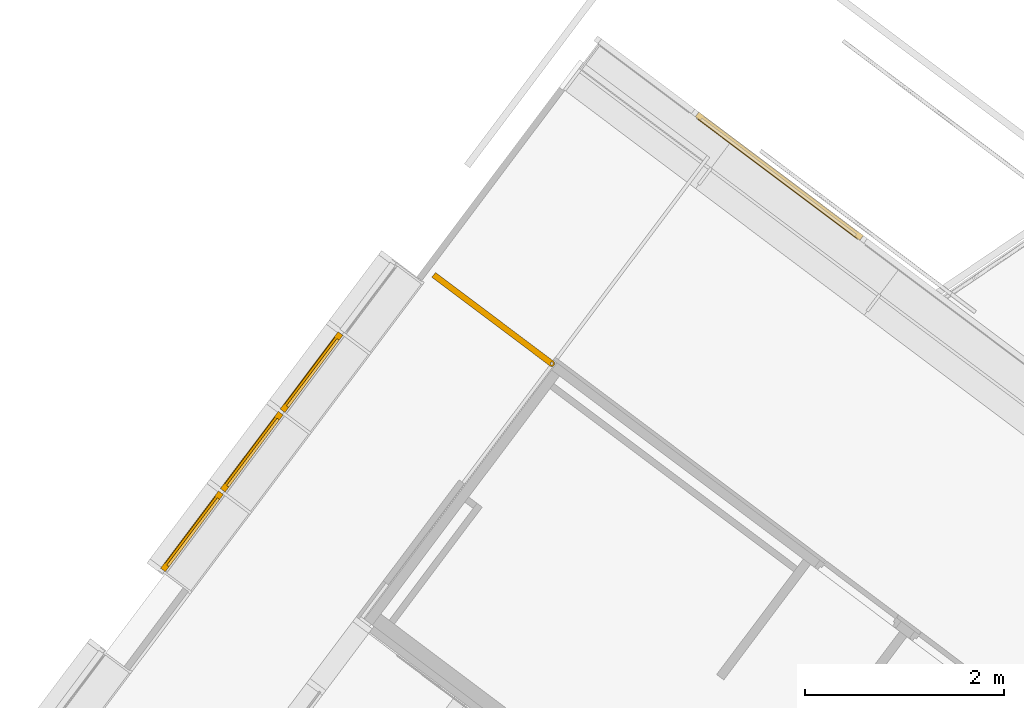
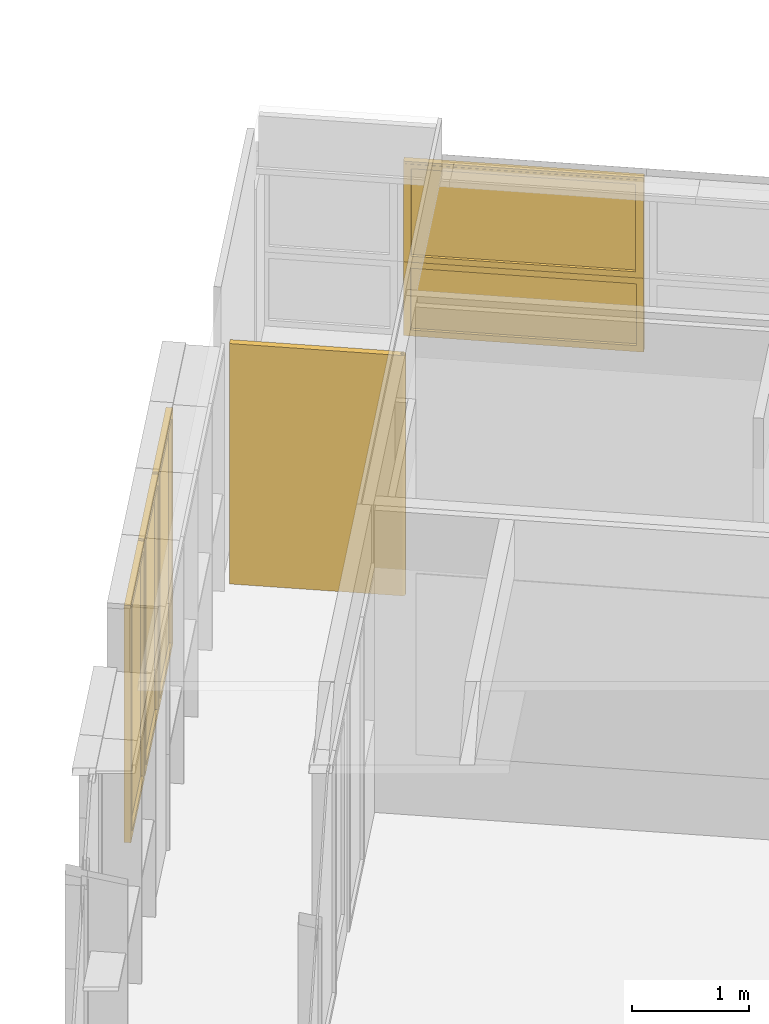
# One storey, part 204 of 243: 5 windows, 1 door, 2 elements without a shape of their own.
"""IFC2X3 building model written with IfcOpenShell, lengths in metres."""

import ifcopenshell
import ifcopenshell.guid

model = None  # the IFC model being written
_history = None  # IfcOwnerHistory: only IFC2X3 demands one
_inside = {}  # id of a spatial element -> (the spatial element, [elements in it])
_under = {}  # id of a project, library or spatial element -> (it, [spatial elements below it])
_declared = {}  # id of a project -> (the project, [libraries it declares])
_typed = {}  # id of a type object -> (the type object, [elements of that type])
_made_of = {}  # id of a material, layer set ... -> (it, [elements and type objects made of it])


def new_model(schema):
    """Start an empty IFC model of exactly this schema.

    Asked for "IFC4X3", IfcOpenShell would pick the latest addendum, in which some entities
    have other attributes; the version numbers below select the first issue.
    IFC2X3 requires an IfcOwnerHistory on every rooted entity: one is made here for all.
    """
    global model, _history
    if schema == "IFC4X3":
        model = ifcopenshell.file(schema_version=(4, 3, 0, 0))
    else:
        model = ifcopenshell.file(schema=schema)
    _inside.clear()
    _under.clear()
    _declared.clear()
    _typed.clear()
    _made_of.clear()
    _history = None
    if model.schema == "IFC2X3":
        org = make("IfcOrganization", Name="unknown")
        user = make(
            "IfcPersonAndOrganization",
            ThePerson=make("IfcPerson", FamilyName="unknown"),
            TheOrganization=org,
        )
        app = make(
            "IfcApplication",
            ApplicationDeveloper=org,
            Version="unknown",
            ApplicationFullName="unknown",
            ApplicationIdentifier="unknown",
        )
        _history = make(
            "IfcOwnerHistory",
            OwningUser=user,
            OwningApplication=app,
            ChangeAction="ADDED",
            CreationDate=0,
        )
    return model


def make(cls, **values):
    """One entity of the class cls with the attributes given. An attribute that is None is left unset."""
    return model.create_entity(
        cls, **{name: value for name, value in values.items() if value is not None}
    )


def entity(cls, *values):
    """Any entity or typed value of the class cls, its attributes in the order of the schema. None: left unset."""
    e = model.create_entity(cls)
    for i, value in enumerate(values):
        if value is not None:
            e[i] = value
    return e


def rooted(cls, **values):
    """An entity with a GlobalId (a new one), such as an element, a storey or a relation."""
    return make(cls, GlobalId=ifcopenshell.guid.new(), OwnerHistory=_history, **values)


def si_unit(unit_type, name, prefix=None):
    """IfcSIUnit, for example si_unit("LENGTHUNIT", "METRE", prefix="MILLI")."""
    return make("IfcSIUnit", UnitType=unit_type, Prefix=prefix, Name=name)


def converted_unit(unit_type, name, factor, base, dimensions=None, offset=None):
    """IfcConversionBasedUnit, such as the inch: factor (a typed value) times the base unit."""
    return make(
        "IfcConversionBasedUnit"
        if offset is None
        else "IfcConversionBasedUnitWithOffset",
        ConversionOffset=offset,
        Dimensions=None
        if dimensions is None
        else entity("IfcDimensionalExponents", *dimensions),
        UnitType=unit_type,
        Name=name,
        ConversionFactor=make(
            "IfcMeasureWithUnit", ValueComponent=factor, UnitComponent=base
        ),
    )


def derived_unit(unit_type, elements):
    """IfcDerivedUnit: a product of units, each with its exponent."""
    return make(
        "IfcDerivedUnit",
        Elements=[
            make("IfcDerivedUnitElement", Unit=unit, Exponent=power)
            for unit, power in elements
        ],
        UnitType=unit_type,
    )


def assignment(units):
    """IfcUnitAssignment: the units of a project."""
    return None if units is None else make("IfcUnitAssignment", Units=units)


def point(xyz):
    """IfcCartesianPoint."""
    return None if xyz is None else make("IfcCartesianPoint", Coordinates=xyz)


def direction(xyz):
    """IfcDirection."""
    return None if xyz is None else make("IfcDirection", DirectionRatios=xyz)


def frame(location, z_axis=None, x_axis=None):
    """IfcAxis2Placement3D, a coordinate frame: its origin and axes. An axis left out is left unset."""
    return make(
        "IfcAxis2Placement3D",
        Location=point(location),
        Axis=direction(z_axis),
        RefDirection=direction(x_axis),
    )


def frame_2d(location, x_axis=None):
    """IfcAxis2Placement2D, a coordinate frame in the plane: its origin and x axis."""
    return make(
        "IfcAxis2Placement2D", Location=point(location), RefDirection=direction(x_axis)
    )


def origin():
    """The frame at (0, 0, 0) with its axes left unset."""
    return frame((0.0, 0.0, 0.0))


def place(relative_to, where):
    """IfcLocalPlacement: puts the frame where relative to a parent placement (None: the world)."""
    return make(
        "IfcLocalPlacement", PlacementRelTo=relative_to, RelativePlacement=where
    )


def context(
    kind, dimensions, precision=None, world=None, true_north=None, identifier=None
):
    """IfcGeometricRepresentationContext, for example the 3D "Model" context."""
    return make(
        "IfcGeometricRepresentationContext",
        ContextIdentifier=identifier,
        ContextType=kind,
        CoordinateSpaceDimension=dimensions,
        Precision=precision,
        WorldCoordinateSystem=world,
        TrueNorth=true_north,
    )


def subcontext(parent, identifier, kind, view, scale=None):
    """IfcGeometricRepresentationSubContext, for example "Body" below "Model"."""
    return make(
        "IfcGeometricRepresentationSubContext",
        ContextIdentifier=identifier,
        ContextType=kind,
        ParentContext=parent,
        TargetScale=scale,
        TargetView=view,
    )


def project(units=None, contexts=None):
    """IfcProject with its units and contexts."""
    return rooted(
        "IfcProject",
        Name="project",
        RepresentationContexts=contexts,
        UnitsInContext=assignment(units),
    )


def spatial(cls, under=None, at=None, **own):
    """A site, building, storey or space (cls), placed at a placement, below another one or the project."""
    s = rooted(cls, ObjectPlacement=at, **own)
    if under is not None:
        _under.setdefault(under.id(), (under, []))[1].append(s)
    return s


def polyline(points):
    """IfcPolyline through the points."""
    return make("IfcPolyline", Points=[point(p) for p in points])


def circle_curve(where, radius):
    """IfcCircle in the frame where."""
    return make("IfcCircle", Position=where, Radius=radius)


def parameter(value):
    """IfcParameterValue: where a trimmed curve begins or ends, as a parameter of its basis curve."""
    return model.create_entity("IfcParameterValue", value)


def trimmed(basis, trim1, trim2, sense, master):
    """IfcTrimmedCurve: the piece of a basis curve between two trims."""
    return make(
        "IfcTrimmedCurve",
        BasisCurve=basis,
        Trim1=trim1,
        Trim2=trim2,
        SenseAgreement=sense,
        MasterRepresentation=master,
    )


def segment(curve, same_sense, transition):
    """IfcCompositeCurveSegment."""
    return make(
        "IfcCompositeCurveSegment",
        Transition=transition,
        SameSense=same_sense,
        ParentCurve=curve,
    )


def composite_curve(segments, self_intersect=None):
    """IfcCompositeCurve: segments joined end to end."""
    return make("IfcCompositeCurve", Segments=segments, SelfIntersect=self_intersect)


def outline(outer, holes=None, kind="AREA"):
    """IfcArbitraryClosedProfileDef: a profile drawn as a closed curve; with holes, ...WithVoids."""
    if holes is None:
        return make("IfcArbitraryClosedProfileDef", ProfileType=kind, OuterCurve=outer)
    return make(
        "IfcArbitraryProfileDefWithVoids",
        ProfileType=kind,
        OuterCurve=outer,
        InnerCurves=holes,
    )


def extrude(swept, where, along, depth):
    """IfcExtrudedAreaSolid: the profile swept, set in the frame where, extruded along a direction by depth."""
    return make(
        "IfcExtrudedAreaSolid",
        SweptArea=swept,
        Position=where,
        ExtrudedDirection=direction(along),
        Depth=depth,
    )


def faces_of(points, faces, orient=None, outer=None):
    """IfcFace entities. A face is a list of loops; a loop is a list of indices into points, from 0.

    orient and outer hold one flag for each loop. By default every Orientation is true, the
    first loop of a face is its IfcFaceOuterBound and the others are IfcFaceBound.
    """
    made = []
    for i, loops in enumerate(faces):
        bounds = []
        for j, loop in enumerate(loops):
            is_outer = j == 0 if outer is None else outer[i][j]
            bounds.append(
                make(
                    "IfcFaceOuterBound" if is_outer else "IfcFaceBound",
                    Bound=make("IfcPolyLoop", Polygon=[points[k] for k in loop]),
                    Orientation=True if orient is None else orient[i][j],
                )
            )
        made.append(make("IfcFace", Bounds=bounds))
    return made


def faceted_brep(points, faces, orient=None, outer=None, voids=None):
    """IfcFacetedBrep: a solid bounded by flat faces; with voids (closed shells), ...WithVoids."""
    shared = [point(p) for p in points]
    hull = make("IfcClosedShell", CfsFaces=faces_of(shared, faces, orient, outer))
    if voids is None:
        return make("IfcFacetedBrep", Outer=hull)
    return make(
        "IfcFacetedBrepWithVoids",
        Outer=hull,
        Voids=[
            make(cls, CfsFaces=faces_of(shared, fs, o, b)) for cls, fs, o, b in voids
        ],
    )


def shape(context_of_items, identifier, shape_type, items):
    """IfcShapeRepresentation: the items that make up one representation, for example the "Body"."""
    return make(
        "IfcShapeRepresentation",
        ContextOfItems=context_of_items,
        RepresentationIdentifier=identifier,
        RepresentationType=shape_type,
        Items=items,
    )


def source(mapping_origin, context_of_items, identifier, shape_type, items):
    """IfcRepresentationMap: a shape defined once, which mapped items show again and again."""
    return make(
        "IfcRepresentationMap",
        MappingOrigin=mapping_origin,
        MappedRepresentation=shape(context_of_items, identifier, shape_type, items),
    )


def transform(
    local_origin,
    x_axis=None,
    y_axis=None,
    z_axis=None,
    scale=None,
    scale2=None,
    scale3=None,
    uniform=True,
):
    """IfcCartesianTransformationOperator3D, or its non-uniform kind. x_axis, y_axis, z_axis: its Axis1, 2, 3."""
    if uniform:
        return make(
            "IfcCartesianTransformationOperator3D",
            Axis1=direction(x_axis),
            Axis2=direction(y_axis),
            LocalOrigin=point(local_origin),
            Scale=scale,
            Axis3=direction(z_axis),
        )
    return make(
        "IfcCartesianTransformationOperator3DnonUniform",
        Axis1=direction(x_axis),
        Axis2=direction(y_axis),
        LocalOrigin=point(local_origin),
        Scale=scale,
        Axis3=direction(z_axis),
        Scale2=scale2,
        Scale3=scale3,
    )


def mapped(mapping_source, mapping_target):
    """IfcMappedItem: shows the shape of a source again, moved by a transform."""
    return make(
        "IfcMappedItem", MappingSource=mapping_source, MappingTarget=mapping_target
    )


def material(Name=None, Category=None):
    """IfcMaterial."""
    return make("IfcMaterial", Name=Name, Category=Category)


def material_list(materials):
    """IfcMaterialList."""
    return make("IfcMaterialList", Materials=materials)


def made_of(thing, what):
    """Note that an element or type object is made of a material, layer set ...; save() writes the relation."""
    if what is not None:
        _made_of.setdefault(what.id(), (what, []))[1].append(thing)
    return thing


def type_object(cls, material=None, **own):
    """A type object (cls), such as IfcWallType, which elements share."""
    return made_of(rooted(cls, **own), material)


def type_shapes(of_type, sources):
    """Give a type object the sources (RepresentationMaps) that its elements show as mapped items."""
    of_type.RepresentationMaps = sources


def element(
    cls,
    number,
    at=None,
    inside=None,
    cuts=None,
    type_object=None,
    material=None,
    context=None,
    identifier="Body",
    shape_type=None,
    held_by="IfcProductDefinitionShape",
    body=None,
    shapes=None,
    **own,
):
    """One element of the class cls, such as IfcWall. Its Tag is "e" and its number.

    at: its placement. inside: the storey or other place that contains it. cuts: it is an
    opening in that element (IfcRelVoidsElement). A single representation is given by context,
    identifier, shape_type and body (its items); several are given by shapes. held_by: the class
    of the entity that holds the representations. save() writes the other relations.
    """
    e = rooted(cls, Tag="e%d" % number, ObjectPlacement=at, **own)
    if body is not None:
        shapes = [shape(context, identifier, shape_type, body)]
    if shapes is not None:
        e.Representation = make(held_by, Representations=shapes)
    if inside is not None:
        _inside.setdefault(inside.id(), (inside, []))[1].append(e)
    if cuts is not None:
        rooted(
            "IfcRelVoidsElement", RelatingBuildingElement=cuts, RelatedOpeningElement=e
        )
    if type_object is not None:
        _typed.setdefault(type_object.id(), (type_object, []))[1].append(e)
    return made_of(e, material)


def aggregate(whole, parts):
    """IfcRelAggregates: a whole, such as a stair, and the parts it consists of."""
    return rooted("IfcRelAggregates", RelatingObject=whole, RelatedObjects=parts)


def save(model, path):
    """Write the relations noted so far, then the file.

    IfcRelAggregates (storeys below a building ...), IfcRelContainedInSpatialStructure (elements
    in a storey), IfcRelDefinesByType, IfcRelAssociatesMaterial and IfcRelDeclares: one each for
    every whole, place, type object, material and project.
    """
    for whole, parts in _under.values():
        aggregate(whole, parts)
    for where, things in _inside.values():
        rooted(
            "IfcRelContainedInSpatialStructure",
            RelatedElements=things,
            RelatingStructure=where,
        )
    for kind, things in _typed.values():
        rooted("IfcRelDefinesByType", RelatedObjects=things, RelatingType=kind)
    for what, things in _made_of.values():
        rooted("IfcRelAssociatesMaterial", RelatedObjects=things, RelatingMaterial=what)
    for by, libraries in _declared.values():
        rooted("IfcRelDeclares", RelatingContext=by, RelatedDefinitions=libraries)
    model.write(path)


model = new_model("IFC2X3")

# Units and contexts
model_context = context("Model", 3, precision=1e-05, world=origin(), true_north=direction((6.123031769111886e-17, 1.0)))
body_context = subcontext(model_context, "Body", "Model", "MODEL_VIEW")
ifc_project = project(units=[si_unit("LENGTHUNIT", "METRE"), si_unit("AREAUNIT", "SQUARE_METRE"), si_unit("VOLUMEUNIT", "CUBIC_METRE"), converted_unit("PLANEANGLEUNIT", "DEGREE", entity("IfcRatioMeasure", 0.017453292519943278), si_unit("PLANEANGLEUNIT", "RADIAN"), dimensions=[0, 0, 0, 0, 0, 0, 0]), si_unit("MASSUNIT", "GRAM", prefix="KILO"), derived_unit("MASSDENSITYUNIT", [(si_unit("MASSUNIT", "GRAM", prefix="KILO"), 1), (si_unit("LENGTHUNIT", "METRE"), -3)]), derived_unit("IONCONCENTRATIONUNIT", [(si_unit("MASSUNIT", "GRAM", prefix="KILO"), 1), (si_unit("LENGTHUNIT", "METRE"), -3)]), derived_unit("MOMENTOFINERTIAUNIT", [(si_unit("LENGTHUNIT", "METRE"), 4)]), si_unit("TIMEUNIT", "SECOND"), si_unit("FREQUENCYUNIT", "HERTZ"), si_unit("THERMODYNAMICTEMPERATUREUNIT", "DEGREE_CELSIUS"), derived_unit("THERMALTRANSMITTANCEUNIT", [(si_unit("MASSUNIT", "GRAM", prefix="KILO"), 1), (si_unit("THERMODYNAMICTEMPERATUREUNIT", "KELVIN"), -1), (si_unit("TIMEUNIT", "SECOND"), -3)]), derived_unit("THERMALCONDUCTANCEUNIT", [(si_unit("MASSUNIT", "GRAM", prefix="KILO"), 1), (si_unit("THERMODYNAMICTEMPERATUREUNIT", "KELVIN"), -1), (si_unit("TIMEUNIT", "SECOND"), -3), (si_unit("LENGTHUNIT", "METRE"), 1)]), derived_unit("VOLUMETRICFLOWRATEUNIT", [(si_unit("LENGTHUNIT", "METRE"), 3), (si_unit("TIMEUNIT", "SECOND"), -1)]), derived_unit("MASSFLOWRATEUNIT", [(si_unit("MASSUNIT", "GRAM", prefix="KILO"), 1), (si_unit("TIMEUNIT", "SECOND"), -1)]), derived_unit("ROTATIONALFREQUENCYUNIT", [(si_unit("TIMEUNIT", "SECOND"), -1)]), si_unit("ELECTRICCURRENTUNIT", "AMPERE"), si_unit("ELECTRICVOLTAGEUNIT", "VOLT"), si_unit("POWERUNIT", "WATT"), si_unit("FORCEUNIT", "NEWTON", prefix="KILO"), si_unit("ILLUMINANCEUNIT", "LUX"), si_unit("LUMINOUSFLUXUNIT", "LUMEN"), si_unit("LUMINOUSINTENSITYUNIT", "CANDELA"), derived_unit("USERDEFINED", [(si_unit("MASSUNIT", "GRAM", prefix="KILO"), -1), (si_unit("LENGTHUNIT", "METRE"), -2), (si_unit("TIMEUNIT", "SECOND"), 3), (si_unit("LUMINOUSFLUXUNIT", "LUMEN"), 1)]), derived_unit("USERDEFINED", [(si_unit("MASSUNIT", "GRAM", prefix="KILO"), 1), (si_unit("TIMEUNIT", "SECOND"), -3), (si_unit("LENGTHUNIT", "METRE"), 3), (si_unit("ELECTRICCURRENTUNIT", "AMPERE"), -2)]), derived_unit("SOUNDPOWERUNIT", [(si_unit("MASSUNIT", "GRAM", prefix="KILO"), 1), (si_unit("TIMEUNIT", "SECOND"), -3), (si_unit("LENGTHUNIT", "METRE"), 2)]), derived_unit("SOUNDPRESSUREUNIT", [(si_unit("MASSUNIT", "GRAM", prefix="KILO"), 1), (si_unit("LENGTHUNIT", "METRE"), -1), (si_unit("TIMEUNIT", "SECOND"), -2)]), derived_unit("LINEARVELOCITYUNIT", [(si_unit("LENGTHUNIT", "METRE"), 1), (si_unit("TIMEUNIT", "SECOND"), -1)]), si_unit("PRESSUREUNIT", "PASCAL"), derived_unit("USERDEFINED", [(si_unit("MASSUNIT", "GRAM", prefix="KILO"), 1), (si_unit("LENGTHUNIT", "METRE"), -2), (si_unit("TIMEUNIT", "SECOND"), -2)]), derived_unit("LINEARFORCEUNIT", [(si_unit("MASSUNIT", "GRAM", prefix="KILO"), 1), (si_unit("TIMEUNIT", "SECOND"), -2)]), derived_unit("PLANARFORCEUNIT", [(si_unit("MASSUNIT", "GRAM", prefix="KILO"), 1), (si_unit("LENGTHUNIT", "METRE"), -1), (si_unit("TIMEUNIT", "SECOND"), -2)]), derived_unit("SPECIFICHEATCAPACITYUNIT", [(si_unit("THERMODYNAMICTEMPERATUREUNIT", "KELVIN"), -1), (si_unit("LENGTHUNIT", "METRE"), 2), (si_unit("TIMEUNIT", "SECOND"), -2)]), derived_unit("HEATINGVALUEUNIT", [(si_unit("LENGTHUNIT", "METRE"), 2), (si_unit("TIMEUNIT", "SECOND"), -2)]), derived_unit("VAPORPERMEABILITYUNIT", [(si_unit("LENGTHUNIT", "METRE"), -1), (si_unit("TIMEUNIT", "SECOND"), 1)]), derived_unit("DYNAMICVISCOSITYUNIT", [(si_unit("MASSUNIT", "GRAM", prefix="KILO"), 1), (si_unit("TIMEUNIT", "SECOND"), -1), (si_unit("LENGTHUNIT", "METRE"), -1)]), derived_unit("THERMALEXPANSIONCOEFFICIENTUNIT", [(si_unit("THERMODYNAMICTEMPERATUREUNIT", "KELVIN"), -1)]), derived_unit("MODULUSOFELASTICITYUNIT", [(si_unit("MASSUNIT", "GRAM", prefix="KILO"), 1), (si_unit("LENGTHUNIT", "METRE"), -1), (si_unit("TIMEUNIT", "SECOND"), -2)]), derived_unit("ISOTHERMALMOISTURECAPACITYUNIT", [(si_unit("LENGTHUNIT", "METRE"), 3), (si_unit("MASSUNIT", "GRAM", prefix="KILO"), -1)]), derived_unit("MOISTUREDIFFUSIVITYUNIT", [(si_unit("TIMEUNIT", "SECOND"), -1), (si_unit("LENGTHUNIT", "METRE"), 2)])], contexts=[model_context])

# Site, building, storey
site_placement = place(None, frame((0.0, 0.0, 235.0), z_axis=(0.0, 0.0, 1.0), x_axis=(-0.7996477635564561, 0.6004693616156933, 0.0)))
site = spatial("IfcSite", under=ifc_project, at=site_placement, Name="Default", CompositionType="ELEMENT")
building_placement = place(site_placement, origin())
building = spatial("IfcBuilding", under=site, at=building_placement, CompositionType="ELEMENT")
storey_placement = place(building_placement, origin())
storey = spatial("IfcBuildingStorey", under=building, at=storey_placement, Name="P0- Escola", CompositionType="ELEMENT", Elevation=0.0)

# Curtain wall, windows
curtain_wall_type_1 = type_object("IfcCurtainWallType", Name="Muro cortina:MC- EXT- MC5", PredefinedType="NOTDEFINED")
curtain_wall_1_placement = place(storey_placement, origin())
curtain_wall_1 = element("IfcCurtainWall", 1, at=curtain_wall_1_placement, inside=storey, type_object=curtain_wall_type_1, Name="Muro cortina:MC- EXT- MC5", ObjectType="Muro cortina:MC- EXT- MC5")
ifc_material_1 = material(Name="_Vidre")
ifc_material_2 = material(Name="_Alumini- T1- Perfil")
ifc_material_list = material_list([ifc_material_1, ifc_material_2])
window_style_1 = type_object("IfcWindowStyle", Name="MC- Alu- Conjunt vidre fix- 62x60 cm:MC- Alu- Conjunt vidre fix- 62x60 cm", ConstructionType="NOTDEFINED", OperationType="NOTDEFINED", ParameterTakesPrecedence=False, Sizeable=False, material=ifc_material_list)
shared_shape_1 = source(origin(), body_context, "Body", "Brep", [
    faceted_brep([(-0.43619328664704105, -0.007600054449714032, 0.048806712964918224), (0.43619328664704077, -0.007600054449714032, 0.048806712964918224), (0.43619328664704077, -0.03160022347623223, 0.048806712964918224), (-0.43619328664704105, -0.03160022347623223, 0.048806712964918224), (-0.43619328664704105, -0.007600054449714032, 2.422449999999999), (0.43619328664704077, -0.007600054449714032, 2.422449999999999), (0.43619328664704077, -0.03160022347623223, 2.422449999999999), (-0.43619328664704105, -0.03160022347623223, 2.422449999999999)], [[[0, 1, 2, 3]], [[4, 5, 1, 0]], [[5, 6, 2, 1]], [[6, 7, 3, 2]], [[7, 4, 0, 3]], [[4, 7, 6, 5]]]),
    faceted_brep([(-0.4849999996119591, -0.05999999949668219, 2.471449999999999), (-0.4849999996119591, 0.0, 2.471449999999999), (-0.4849999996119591, 0.0, 0.0), (-0.48499999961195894, -0.05999999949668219, 0.0), (-0.4221931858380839, 0.0, 2.408643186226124), (-0.4221931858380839, 0.0, 0.06280681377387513), (0.42219318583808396, 0.0, 0.06280681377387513), (0.422193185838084, 0.0, 2.408643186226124), (0.4849999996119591, 0.0, 2.471449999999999), (0.4849999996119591, 0.0, 0.0), (0.48499999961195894, -0.05999999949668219, 0.0), (0.4849999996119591, -0.05999999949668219, 2.471449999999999), (0.42219603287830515, -0.05999999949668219, 2.408646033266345), (0.42219603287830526, -0.05999999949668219, 0.06280396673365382), (-0.42219603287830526, -0.05999999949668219, 0.06280396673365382), (-0.42219603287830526, -0.05999999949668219, 2.4086460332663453), (-0.42219603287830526, -0.03160022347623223, 2.4086460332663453), (-0.4221960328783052, -0.03160022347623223, 0.06280396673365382), (0.4221960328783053, -0.03160022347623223, 0.06280396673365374), (0.42219603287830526, -0.03160022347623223, 2.4086460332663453), (0.43619328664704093, -0.03160022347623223, 2.422643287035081), (0.43619328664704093, -0.03160022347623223, 0.048806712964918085), (-0.4361932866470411, -0.03160022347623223, 0.04880671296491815), (-0.43619328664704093, -0.03160022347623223, 2.422643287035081), (-0.43619328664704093, -0.007600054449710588, 2.422643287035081), (-0.4361932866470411, -0.007600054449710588, 0.04880671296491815), (0.43619328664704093, -0.007600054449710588, 0.048806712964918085), (0.43619328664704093, -0.007600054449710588, 2.422643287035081), (0.42219318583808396, -0.007600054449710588, 2.408643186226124), (0.42219318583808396, -0.007600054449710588, 0.06280681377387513), (-0.42219318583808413, -0.007600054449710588, 0.06280681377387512), (-0.4221931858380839, -0.007600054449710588, 2.408643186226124)], [[[0, 1, 2, 3]], [[4, 5, 6, 7], [8, 9, 2, 1]], [[3, 2, 9, 10]], [[0, 3, 10, 11], [12, 13, 14, 15]], [[16, 15, 14, 17]], [[17, 14, 13, 18]], [[16, 17, 18, 19], [20, 21, 22, 23]], [[24, 23, 22, 25]], [[25, 22, 21, 26]], [[24, 25, 26, 27], [28, 29, 30, 31]], [[4, 31, 30, 5]], [[5, 30, 29, 6]], [[10, 9, 8, 11]], [[18, 13, 12, 19]], [[26, 21, 20, 27]], [[6, 29, 28, 7]], [[11, 8, 1, 0]], [[19, 12, 15, 16]], [[27, 20, 23, 24]], [[7, 28, 31, 4]]], outer=[[True], [False, True], [True], [True, False], [True], [True], [False, True], [True], [True], [True, False], [True], [True], [True], [True], [True], [True], [True], [True], [True], [True]]),
])
type_shapes(window_style_1, [shared_shape_1])
window_1_placement = place(curtain_wall_1_placement, frame((74.74514768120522, -35.91519175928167, 0.03229999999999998), z_axis=(0.0, 0.0, 1.0), x_axis=(0.0, -1.0, 0.0)))
window_1 = element("IfcWindow", 2, at=window_1_placement, type_object=window_style_1, material=ifc_material_list, Name="MC- Alu- Conjunt vidre fix- 62x60 cm:MC- Alu- Conjunt vidre fix- 62x60 cm", ObjectType="MC- Alu- Conjunt vidre fix- 62x60 cm:MC- Alu- Conjunt vidre fix- 62x60 cm", OverallHeight=2.471449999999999, OverallWidth=0.9699999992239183, context=body_context, shape_type="MappedRepresentation", body=[
    mapped(shared_shape_1, transform((0.0, 0.0, 0.0), scale=1.0)),
])
window_2_placement = place(curtain_wall_1_placement, frame((74.74514768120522, -36.9151917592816, 0.03229999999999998), z_axis=(0.0, 0.0, 1.0), x_axis=(0.0, -1.0, 0.0)))
window_2 = element("IfcWindow", 3, at=window_2_placement, type_object=window_style_1, material=ifc_material_list, Name="MC- Alu- Conjunt vidre fix- 62x60 cm:MC- Alu- Conjunt vidre fix- 62x60 cm", ObjectType="MC- Alu- Conjunt vidre fix- 62x60 cm:MC- Alu- Conjunt vidre fix- 62x60 cm", OverallHeight=2.471449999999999, OverallWidth=0.9699999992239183, context=body_context, shape_type="MappedRepresentation", body=[
    mapped(shared_shape_1, transform((0.0, 0.0, 0.0), scale=1.0)),
])
window_3_placement = place(curtain_wall_1_placement, frame((74.74514768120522, -37.9151917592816, 0.03229999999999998), z_axis=(0.0, 0.0, 1.0), x_axis=(0.0, -1.0, 0.0)))
window_3 = element("IfcWindow", 4, at=window_3_placement, type_object=window_style_1, material=ifc_material_list, Name="MC- Alu- Conjunt vidre fix- 62x60 cm:MC- Alu- Conjunt vidre fix- 62x60 cm", ObjectType="MC- Alu- Conjunt vidre fix- 62x60 cm:MC- Alu- Conjunt vidre fix- 62x60 cm", OverallHeight=2.471449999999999, OverallWidth=0.9699999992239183, context=body_context, shape_type="MappedRepresentation", body=[
    mapped(shared_shape_1, transform((0.0, 0.0, 0.0), scale=1.0)),
])
aggregate(curtain_wall_1, [window_1, window_2, window_3])

curtain_wall_type_2 = type_object("IfcCurtainWallType", Name="Muro cortina:MC- EXT- MC6", PredefinedType="NOTDEFINED")
curtain_wall_2_placement = place(storey_placement, origin())
curtain_wall_2 = element("IfcCurtainWall", 5, at=curtain_wall_2_placement, inside=storey, type_object=curtain_wall_type_2, Name="Muro cortina:MC- EXT- MC6", ObjectType="Muro cortina:MC- EXT- MC6")
window_style_2 = type_object("IfcWindowStyle", Name="MC- Alu- Conjunt vidre fix- 62x60 cm:MC- Alu- Conjunt vidre fix- 62x60 cm", ConstructionType="NOTDEFINED", OperationType="NOTDEFINED", ParameterTakesPrecedence=False, Sizeable=False, material=ifc_material_list)
shared_shape_2 = source(origin(), body_context, "Body", "Brep", [
    faceted_brep([(0.984693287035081, -0.007600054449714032, 0.048806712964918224), (0.9846932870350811, -0.03160022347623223, 0.048806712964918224), (-0.9846932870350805, -0.03160022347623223, 0.048806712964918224), (-0.9846932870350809, -0.007600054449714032, 0.048806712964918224), (0.984693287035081, -0.007600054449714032, 0.7210000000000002), (-0.9846932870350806, -0.007600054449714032, 0.7210000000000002), (-0.9846932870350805, -0.03160022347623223, 0.7210000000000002), (0.9846932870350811, -0.03160022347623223, 0.7210000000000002)], [[[0, 1, 2, 3]], [[4, 0, 3, 5]], [[5, 3, 2, 6]], [[6, 2, 1, 7]], [[7, 1, 0, 4]], [[4, 5, 6, 7]]]),
    faceted_brep([(1.033499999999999, -0.05999999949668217, 0.7700000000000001), (1.033499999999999, -0.05999999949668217, 0.0), (1.033499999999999, 0.0, 0.0), (1.033499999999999, 0.0, 0.7699999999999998), (-1.033499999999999, 0.0, 0.7700000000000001), (-1.033499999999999, 0.0, 0.0), (0.9706931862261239, 0.0, 0.7071931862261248), (-0.9706931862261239, 0.0, 0.707193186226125), (-0.9706931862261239, 0.0, 0.0628068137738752), (0.9706931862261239, 0.0, 0.06280681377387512), (-1.033499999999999, -0.05999999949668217, 0.0), (-1.033499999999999, -0.05999999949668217, 0.7700000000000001), (-0.9706960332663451, -0.05999999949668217, 0.7071960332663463), (0.9706960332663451, -0.05999999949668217, 0.7071960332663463), (0.9706960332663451, -0.05999999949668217, 0.06280396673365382), (-0.9706960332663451, -0.05999999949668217, 0.06280396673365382), (0.9706960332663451, -0.03160022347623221, 0.7071960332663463), (0.9706960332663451, -0.03160022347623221, 0.06280396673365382), (-0.9706960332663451, -0.03160022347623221, 0.06280396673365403), (-0.9706960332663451, -0.03160022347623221, 0.7071960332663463), (-0.9846932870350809, -0.03160022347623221, 0.721193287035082), (0.9846932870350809, -0.03160022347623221, 0.721193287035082), (0.9846932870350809, -0.03160022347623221, 0.048806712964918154), (-0.9846932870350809, -0.03160022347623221, 0.04880671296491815), (0.9846932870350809, -0.007600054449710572, 0.721193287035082), (0.9846932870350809, -0.007600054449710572, 0.04880671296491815), (-0.9846932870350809, -0.007600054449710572, 0.048806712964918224), (-0.9846932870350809, -0.007600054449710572, 0.721193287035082), (-0.9706931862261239, -0.007600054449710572, 0.707193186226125), (0.9706931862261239, -0.007600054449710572, 0.707193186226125), (0.9706931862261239, -0.007600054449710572, 0.06280681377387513), (-0.9706931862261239, -0.007600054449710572, 0.06280681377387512)], [[[0, 1, 2, 3]], [[4, 3, 2, 5], [6, 7, 8, 9]], [[1, 10, 5, 2]], [[0, 11, 10, 1], [12, 13, 14, 15]], [[16, 17, 14, 13]], [[17, 18, 15, 14]], [[16, 19, 18, 17], [20, 21, 22, 23]], [[24, 25, 22, 21]], [[25, 26, 23, 22]], [[24, 27, 26, 25], [28, 29, 30, 31]], [[6, 9, 30, 29]], [[9, 8, 31, 30]], [[10, 11, 4, 5]], [[18, 19, 12, 15]], [[26, 27, 20, 23]], [[8, 7, 28, 31]], [[11, 0, 3, 4]], [[19, 16, 13, 12]], [[27, 24, 21, 20]], [[7, 6, 29, 28]]], outer=[[True], [True, False], [True], [True, False], [True], [True], [False, True], [True], [True], [True, False], [True], [True], [True], [True], [True], [True], [True], [True], [True], [True]]),
])
type_shapes(window_style_2, [shared_shape_2])
window_4_placement = place(curtain_wall_2_placement, frame((72.14005280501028, -42.340191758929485, 0.685), z_axis=(0.0, 0.0, 1.0), x_axis=(-1.0, 0.0, 0.0)))
window_4 = element("IfcWindow", 6, at=window_4_placement, type_object=window_style_2, material=ifc_material_list, Name="MC- Alu- Conjunt vidre fix- 62x60 cm:MC- Alu- Conjunt vidre fix- 62x60 cm", ObjectType="MC- Alu- Conjunt vidre fix- 62x60 cm:MC- Alu- Conjunt vidre fix- 62x60 cm", OverallHeight=0.7700000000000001, OverallWidth=2.066999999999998, context=body_context, shape_type="MappedRepresentation", body=[
    mapped(shared_shape_2, transform((0.0, 0.0, 0.0), scale=1.0)),
])
window_style_3 = type_object("IfcWindowStyle", Name="MC- Alu- Conjunt finestra basculant- 68x68 cm:MC- Alu- Conjunt finestra basculant- 68x68 cm", ConstructionType="NOTDEFINED", OperationType="NOTDEFINED", ParameterTakesPrecedence=False, Sizeable=False, material=ifc_material_list)
shared_shape_3 = source(origin(), body_context, "Body", "Brep", [
    faceted_brep([(0.9814117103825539, -0.035598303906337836, 0.051999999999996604), (-0.9814117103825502, -0.035598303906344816, 0.051999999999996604), (-0.9814117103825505, -0.011598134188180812, 0.051999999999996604), (0.9814117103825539, -0.011598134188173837, 0.051999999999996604), (0.9814117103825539, -0.035598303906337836, 0.9953027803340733), (0.9814117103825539, -0.011598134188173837, 0.9953027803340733), (-0.9814117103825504, -0.011598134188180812, 0.9953027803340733), (-0.9814117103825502, -0.035598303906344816, 0.9953027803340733)], [[[0, 1, 2, 3]], [[4, 0, 3, 5]], [[5, 3, 2, 6]], [[6, 2, 1, 7]], [[7, 1, 0, 4]], [[4, 5, 6, 7]]]),
    faceted_brep([(-0.9657108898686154, -0.009998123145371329, 0.9796019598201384), (-0.9657108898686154, -0.00999812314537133, 0.06789804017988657), (-0.9657108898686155, -0.007998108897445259, 0.06789804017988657), (-0.9657108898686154, -0.007998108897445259, 0.9796019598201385), (-0.994608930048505, -0.007998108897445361, 1.0085000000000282), (0.9946089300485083, -0.007998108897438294, 1.0085000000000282), (0.9946089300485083, -0.007998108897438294, 0.03899999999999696), (-0.994608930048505, -0.007998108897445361, 0.03899999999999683), (0.9657108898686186, -0.007998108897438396, 0.9796019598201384), (0.9657108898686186, -0.007998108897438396, 0.06789804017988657), (0.9657108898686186, -0.009998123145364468, 0.06789804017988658), (0.9657108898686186, -0.009998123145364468, 0.9796019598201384), (0.9814117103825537, -0.00999812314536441, 0.9953027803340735), (-0.9814117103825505, -0.009998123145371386, 0.9953027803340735), (-0.9814117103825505, -0.009998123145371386, 0.05219721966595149), (0.9814117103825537, -0.00999812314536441, 0.052197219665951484), (-0.9814117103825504, -0.040799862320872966, 0.9953027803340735), (-0.9814117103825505, -0.040799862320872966, 0.052197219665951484), (0.9814117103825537, -0.040799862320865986, 0.052197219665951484), (0.9814117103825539, -0.04079986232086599, 0.9953027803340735), (0.9657108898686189, -0.04079986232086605, 0.9796019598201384), (-0.9657108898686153, -0.04079986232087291, 0.9796019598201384), (-0.9657108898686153, -0.04079986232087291, 0.06789804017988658), (0.9657108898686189, -0.04079986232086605, 0.06789804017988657), (-0.9657108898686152, -0.06800005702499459, 0.9796019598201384), (-0.9657108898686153, -0.06800005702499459, 0.06789804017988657), (0.9657108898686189, -0.06800005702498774, 0.06789804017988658), (0.965710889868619, -0.06800005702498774, 0.9796019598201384), (1.0121128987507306, -0.06800005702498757, 1.0260039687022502), (-1.0121128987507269, -0.06800005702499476, 1.0260039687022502), (-1.0121128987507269, -0.06800005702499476, 0.021496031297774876), (1.0121128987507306, -0.06800005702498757, 0.02149603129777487), (-1.012112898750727, -0.06450003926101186, 1.0260039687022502), (-1.012112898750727, -0.06450003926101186, 0.02149603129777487), (1.0121128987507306, -0.06450003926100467, 0.021496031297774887), (1.0121128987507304, -0.06450003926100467, 1.0260039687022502), (0.9946089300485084, -0.06450003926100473, 1.0085000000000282), (-0.9946089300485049, -0.06450003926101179, 1.0085000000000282), (-0.9946089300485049, -0.06450003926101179, 0.03899999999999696), (0.9946089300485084, -0.06450003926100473, 0.038999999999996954)], [[[0, 1, 2, 3]], [[4, 5, 6, 7], [8, 3, 2, 9]], [[1, 10, 9, 2]], [[0, 11, 10, 1], [12, 13, 14, 15]], [[16, 17, 14, 13]], [[17, 18, 15, 14]], [[16, 19, 18, 17], [20, 21, 22, 23]], [[24, 25, 22, 21]], [[25, 26, 23, 22]], [[24, 27, 26, 25], [28, 29, 30, 31]], [[32, 33, 30, 29]], [[33, 34, 31, 30]], [[32, 35, 34, 33], [36, 37, 38, 39]], [[4, 7, 38, 37]], [[7, 6, 39, 38]], [[10, 11, 8, 9]], [[18, 19, 12, 15]], [[26, 27, 20, 23]], [[34, 35, 28, 31]], [[6, 5, 36, 39]], [[11, 0, 3, 8]], [[19, 16, 13, 12]], [[27, 24, 21, 20]], [[35, 32, 29, 28]], [[5, 4, 37, 36]]], outer=[[True], [True, False], [True], [False, True], [True], [True], [True, False], [True], [True], [False, True], [True], [True], [True, False], [True], [True], [True], [True], [True], [True], [True], [True], [True], [True], [True], [True]]),
    faceted_brep([(0.9706931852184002, 0.0, 0.9846931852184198), (0.9706931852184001, 0.0, 0.06280681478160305), (0.9706931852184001, -0.0040000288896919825, 0.06280681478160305), (0.9706931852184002, -0.0040000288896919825, 0.9846931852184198), (-0.9706931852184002, -0.0040000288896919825, 0.9846931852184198), (-0.9706931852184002, -0.0040000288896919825, 0.06280681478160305), (1.0060998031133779, -0.0040000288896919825, 1.0200998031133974), (-1.006099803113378, -0.0040000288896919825, 1.0200998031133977), (-1.0060998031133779, -0.0040000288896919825, 0.02740019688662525), (1.006099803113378, -0.0040000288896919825, 0.02740019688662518), (-0.9706931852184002, 0.0, 0.062806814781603), (-0.9706931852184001, 0.0, 0.9846931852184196), (-1.0335000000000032, 0.0, 1.0475000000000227), (1.0335000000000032, 0.0, 1.0475000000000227), (1.0335000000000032, 0.0, 0.0), (-1.0335000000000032, 0.0, 0.0), (1.0335000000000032, -0.05999999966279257, 1.0475000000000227), (1.033500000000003, -0.05999999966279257, 0.0), (-1.0335000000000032, -0.05999999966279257, 0.0), (-1.033500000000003, -0.05999999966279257, 1.0475000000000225), (-1.006099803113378, -0.05999999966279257, 1.0200998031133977), (1.006099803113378, -0.05999999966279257, 1.0200998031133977), (1.006099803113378, -0.05999999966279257, 0.027400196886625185), (-1.006099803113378, -0.05999999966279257, 0.02740019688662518)], [[[0, 1, 2, 3]], [[4, 3, 2, 5], [6, 7, 8, 9]], [[1, 10, 5, 2]], [[0, 11, 10, 1], [12, 13, 14, 15]], [[16, 17, 14, 13]], [[17, 18, 15, 14]], [[16, 19, 18, 17], [20, 21, 22, 23]], [[6, 9, 22, 21]], [[9, 8, 23, 22]], [[10, 11, 4, 5]], [[18, 19, 12, 15]], [[8, 7, 20, 23]], [[11, 0, 3, 4]], [[19, 16, 13, 12]], [[7, 6, 21, 20]]], outer=[[True], [False, True], [True], [False, True], [True], [True], [True, False], [True], [True], [True], [True], [True], [True], [True], [True]]),
])
type_shapes(window_style_3, [shared_shape_3])
window_5_placement = place(curtain_wall_2_placement, frame((72.14005280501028, -42.340191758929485, 1.455), z_axis=(0.0, 0.0, 1.0), x_axis=(-1.0, 0.0, 0.0)))
window_5 = element("IfcWindow", 7, at=window_5_placement, type_object=window_style_3, material=ifc_material_list, Name="MC- Alu- Conjunt finestra basculant- 68x68 cm:MC- Alu- Conjunt finestra basculant- 68x68 cm", ObjectType="MC- Alu- Conjunt finestra basculant- 68x68 cm:MC- Alu- Conjunt finestra basculant- 68x68 cm", OverallHeight=1.0475000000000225, OverallWidth=2.0670000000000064, context=body_context, shape_type="MappedRepresentation", body=[
    mapped(shared_shape_3, transform((0.0, 0.0, 0.0), scale=1.0)),
])
aggregate(curtain_wall_2, [window_4, window_5])

# Door
ifc_material_3 = material(Name="_Fusta massisa- T1")
door_style = type_object("IfcDoorStyle", Name="FUS- Porta Fusta- Tancament passadis:FUS- Porta Fusta- Tancament passadis", ConstructionType="NOTDEFINED", OperationType="SINGLE_SWING_LEFT", ParameterTakesPrecedence=False, Sizeable=False, material=ifc_material_3)
shared_shape_4 = source(origin(), body_context, "Body", "SweptSolid", [
    extrude(outline(composite_curve([segment(polyline([(-0.7415578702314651, -0.03000000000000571), (0.7415578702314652, -0.030000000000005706)]), True, "CONTINUOUS"), segment(trimmed(circle_curve(frame_2d((0.7415578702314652, 0.0), x_axis=(-1.0, 0.0)), 0.030000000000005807), [parameter(89.99999999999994)], [parameter(269.99999999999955)], True, "PARAMETER"), True, "CONTINUOUS"), segment(polyline([(0.7415578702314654, 0.030000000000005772), (-0.7415578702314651, 0.030000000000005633)]), True, "CONTINUOUS"), segment(polyline([(-0.7415578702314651, 0.030000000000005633), (-0.7415578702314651, -0.03000000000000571)]), True, "CONTINUOUS")], self_intersect=False), holes=[composite_curve([segment(trimmed(circle_curve(frame_2d((0.7415578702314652, 0.0), x_axis=(-1.0, 0.0)), 0.014999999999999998), [parameter(3.053332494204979e-13)], [parameter(180.0)], True, "PARAMETER"), False, "CONTINUOUS"), segment(trimmed(circle_curve(frame_2d((0.7415578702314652, 0.0), x_axis=(-1.0, 0.0)), 0.014999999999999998), [parameter(179.99999999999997)], [parameter(0.0)], True, "PARAMETER"), False, "CONTINUOUS")], self_intersect=False)]), frame((0.7715578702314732, 0.0, 0.0), z_axis=(0.0, 0.0, 1.0), x_axis=(-1.0, 0.0, 0.0)), (0.0, 0.0, 1.0), 2.5049999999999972),
])
type_shapes(door_style, [shared_shape_4])
door_placement = place(storey_placement, frame((72.80772127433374, -39.43276535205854, 0.0)))
element("IfcDoor", 8, at=door_placement, inside=storey, type_object=door_style, material=ifc_material_3, Name="FUS- Porta Fusta- Tancament passadis:FUS- Porta Fusta- Tancament passadis", ObjectType="FUS- Porta Fusta- Tancament passadis:FUS- Porta Fusta- Tancament passadis", OverallHeight=2.505000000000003, OverallWidth=1.5131157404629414, context=body_context, shape_type="MappedRepresentation", body=[
    mapped(shared_shape_4, transform((0.0, 0.0, 0.0), scale=1.0)),
])

save(model, "model.ifc")
